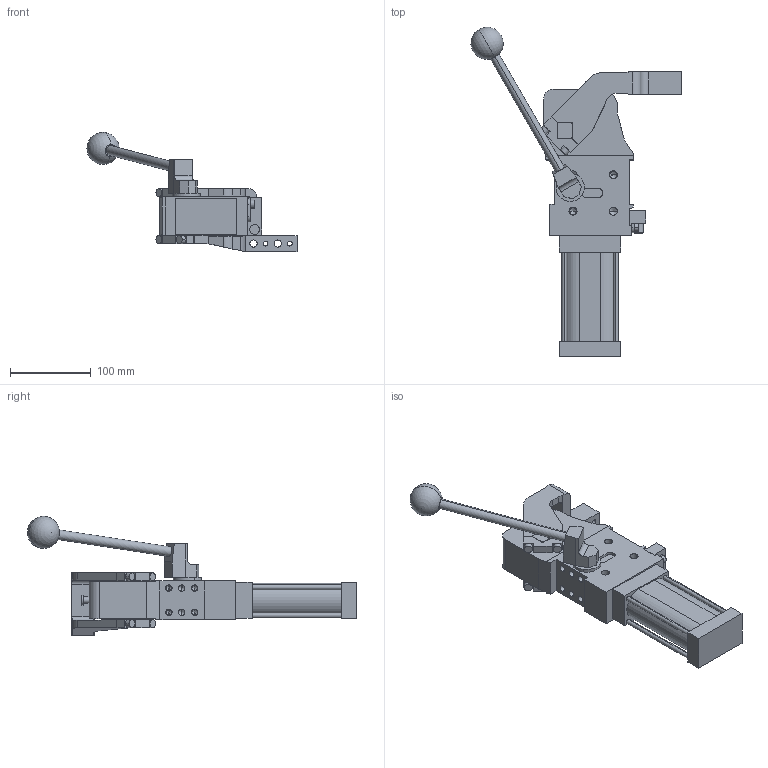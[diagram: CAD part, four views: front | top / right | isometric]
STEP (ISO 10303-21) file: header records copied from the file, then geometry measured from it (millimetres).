
FILE_DESCRIPTION (( 'STEP AP214' ), '1' );
FILE_NAME ('cplm50lav3dsi1g_26.STEP', '2023-01-26T13:57:27', ( '' ), ( '' ), 'SwSTEP 2.0', 'SolidWorks 2022', '' );
FILE_SCHEMA (( 'AUTOMOTIVE_DESIGN' ));
Length unit declared in the file: millimetre
Products named in the file (5): meccanica_cplm_50; cplm50lav3dsi1g_26; comando_manuale_cplm_50; blocchetto_VEP_0; leva_sx_offset_45_cpl50
Assembly tree (4 placements, depth 2):
  cplm50lav3dsi1g_26
    meccanica_cplm_50
    blocchetto_VEP_0
    leva_sx_offset_45_cpl50
    comando_manuale_cplm_50
Bounding box: 260.57 x 408.56 x 148 mm (x, y, z)
Volume: 1483582.8 mm3; surface area: 184927.1 mm2
Topology: 4 solids, 4 shells, 433 faces, 1114 edges, 695 vertices
Faces by surface type: plane 214, cylinder 167, cone 50, sphere 2
Entity records: 14434 total; most frequent: CARTESIAN_POINT 2298, DIRECTION 2278, ORIENTED_EDGE 2126, EDGE_CURVE 1063, AXIS2_PLACEMENT_3D 790, LINE 698, VECTOR 698, VERTEX_POINT 692
